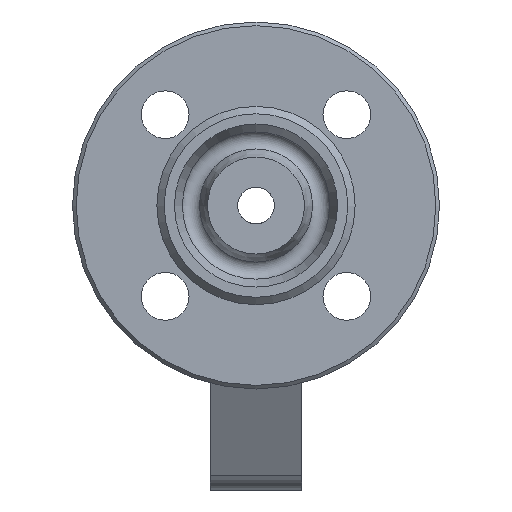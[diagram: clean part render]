
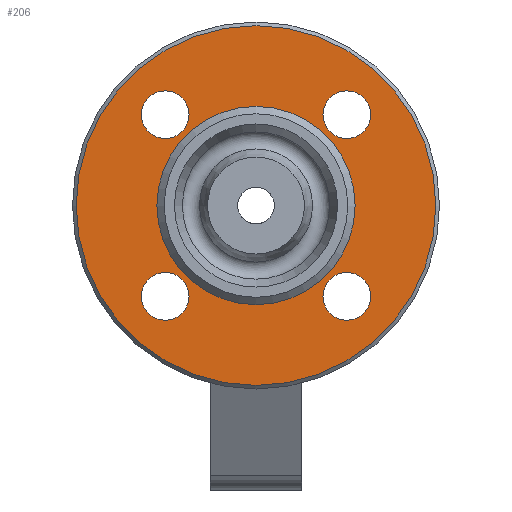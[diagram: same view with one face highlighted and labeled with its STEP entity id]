
A CAD part, left-side view. The second image highlights one B-rep face of the part: STEP entity #206.
In plain terms, the highlighted planar face has unit normal (-1, 0, 0).
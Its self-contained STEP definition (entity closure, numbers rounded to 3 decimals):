
#206=ADVANCED_FACE('',(#1625,#1627,#1629,#1631,#1633,#1635),#1637,.T.);
#1625=FACE_BOUND('',#1626,.T.);
#1626=EDGE_LOOP('',(#2477));
#1627=FACE_BOUND('',#1628,.T.);
#1628=EDGE_LOOP('',(#2478));
#1629=FACE_BOUND('',#1630,.T.);
#1630=EDGE_LOOP('',(#2479));
#1631=FACE_BOUND('',#1632,.T.);
#1632=EDGE_LOOP('',(#2480));
#1633=FACE_BOUND('',#1634,.T.);
#1634=EDGE_LOOP('',(#2481));
#1635=FACE_OUTER_BOUND('',#1636,.T.);
#1636=EDGE_LOOP('',(#2482));
#1637=PLANE('',#1638);
#1638=AXIS2_PLACEMENT_3D('',#1639,#1640,#1641);
#1639=CARTESIAN_POINT('',(-52.,0.,0.));
#1640=DIRECTION('',(-1.,0.,0.));
#1641=DIRECTION('',(0.,1.,0.));
#2477=ORIENTED_EDGE('',*,*,#3365,.T.);
#2478=ORIENTED_EDGE('',*,*,#3368,.T.);
#2479=ORIENTED_EDGE('',*,*,#3370,.T.);
#2480=ORIENTED_EDGE('',*,*,#3372,.T.);
#2481=ORIENTED_EDGE('',*,*,#3355,.F.);
#2482=ORIENTED_EDGE('',*,*,#3375,.F.);
#3355=EDGE_CURVE('',#3788,#3788,#3789,.F.);
#3365=EDGE_CURVE('',#3805,#3805,#3806,.F.);
#3368=EDGE_CURVE('',#3808,#3808,#3810,.F.);
#3370=EDGE_CURVE('',#3811,#3811,#3813,.F.);
#3372=EDGE_CURVE('',#3814,#3814,#3816,.F.);
#3375=EDGE_CURVE('',#3820,#3820,#3821,.T.);
#3788=VERTEX_POINT('',#5253);
#3789=CIRCLE('',#5254,27.);
#3805=VERTEX_POINT('',#5297);
#3806=CIRCLE('',#5298,6.5);
#3808=VERTEX_POINT('',#5305);
#3810=CIRCLE('',#5309,6.5);
#3811=VERTEX_POINT('',#5313);
#3813=CIRCLE('',#5317,6.5);
#3814=VERTEX_POINT('',#5321);
#3816=CIRCLE('',#5325,6.5);
#3820=VERTEX_POINT('',#5337);
#3821=CIRCLE('',#5338,49.);
#5253=CARTESIAN_POINT('',(-52.,27.,0.));
#5254=AXIS2_PLACEMENT_3D('',#5255,#5256,#5257);
#5255=CARTESIAN_POINT('',(-52.,0.,0.));
#5256=DIRECTION('',(1.,-0.,-0.));
#5257=DIRECTION('',(0.,1.,0.));
#5297=CARTESIAN_POINT('',(-52.,-24.749,-31.249));
#5298=AXIS2_PLACEMENT_3D('',#5299,#5300,#5301);
#5299=CARTESIAN_POINT('',(-52.,-24.749,-24.749));
#5300=DIRECTION('',(-1.,0.,0.));
#5301=DIRECTION('',(0.,0.,-1.));
#5305=CARTESIAN_POINT('',(-52.,-31.249,24.749));
#5309=AXIS2_PLACEMENT_3D('',#5310,#5311,#5312);
#5310=CARTESIAN_POINT('',(-52.,-24.749,24.749));
#5311=DIRECTION('',(-1.,0.,0.));
#5312=DIRECTION('',(0.,-1.,-0.));
#5313=CARTESIAN_POINT('',(-52.,24.749,31.249));
#5317=AXIS2_PLACEMENT_3D('',#5318,#5319,#5320);
#5318=CARTESIAN_POINT('',(-52.,24.749,24.749));
#5319=DIRECTION('',(-1.,0.,0.));
#5320=DIRECTION('',(0.,0.,1.));
#5321=CARTESIAN_POINT('',(-52.,31.249,-24.749));
#5325=AXIS2_PLACEMENT_3D('',#5326,#5327,#5328);
#5326=CARTESIAN_POINT('',(-52.,24.749,-24.749));
#5327=DIRECTION('',(-1.,0.,0.));
#5328=DIRECTION('',(0.,1.,0.));
#5337=CARTESIAN_POINT('',(-52.,49.,0.));
#5338=AXIS2_PLACEMENT_3D('',#5339,#5340,#5341);
#5339=CARTESIAN_POINT('',(-52.,0.,0.));
#5340=DIRECTION('',(1.,-0.,-0.));
#5341=DIRECTION('',(0.,1.,0.));
